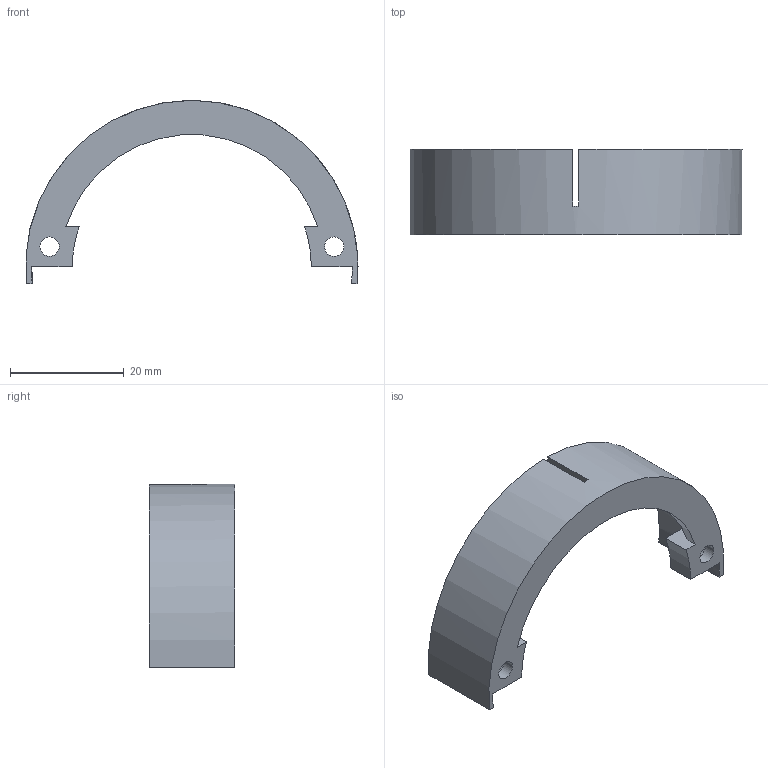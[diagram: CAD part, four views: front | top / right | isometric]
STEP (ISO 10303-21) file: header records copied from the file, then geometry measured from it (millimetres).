
FILE_DESCRIPTION((''),'2;1');
FILE_NAME('ART23OPTODISK_01','2022-08-24T09:20:23',('domen.bizjak'),('Audax d.o.o.'),'CREO PARAMETRIC BY PTC INC, 2021184','CREO PARAMETRIC BY PTC INC, 2021184','');
FILE_SCHEMA(('AP242_MANAGED_MODEL_BASED_3D_ENGINEERING_MIM_LF { 1 0 10303 442 1 1 4 }'));
Length unit declared in the file: millimetre
Products named in the file (1): ART23OPTODISK_01
Bounding box: 58.34 x 15 x 32.2 mm (x, y, z)
Volume: 2424.9 mm3; surface area: 4158.3 mm2
Topology: 1 solids, 1 shells, 31 faces, 90 edges, 64 vertices
Faces by surface type: plane 17, cylinder 13, torus 1
Entity records: 1968 total; most frequent: COLOUR_RGB 319, DIRECTION 221, CARTESIAN_POINT 211, ORIENTED_EDGE 174, PRESENTATION_STYLE_ASSIGNMENT 97, STYLED_ITEM 97, CURVE_STYLE 92, AXIS2_PLACEMENT_3D 87
